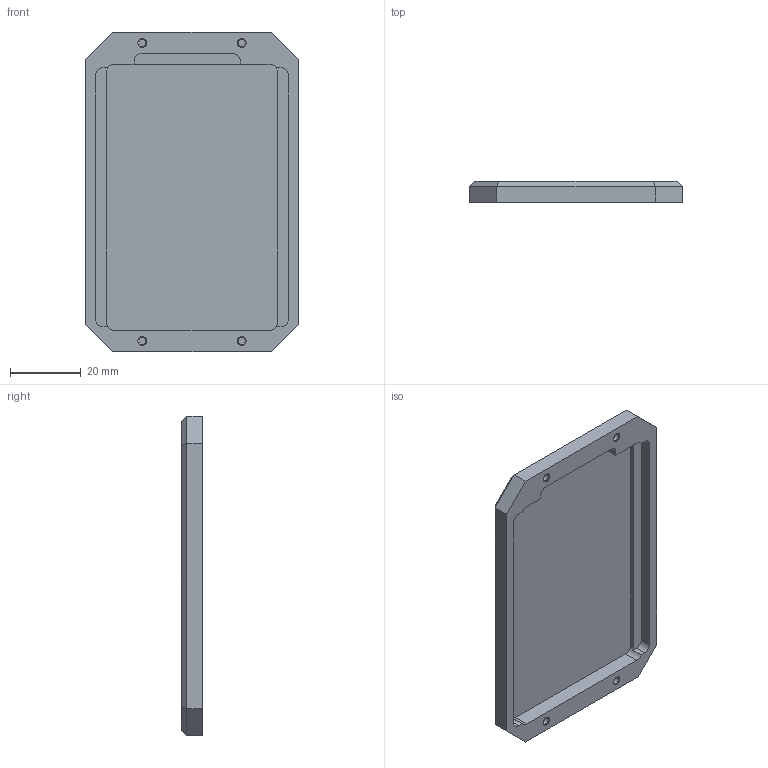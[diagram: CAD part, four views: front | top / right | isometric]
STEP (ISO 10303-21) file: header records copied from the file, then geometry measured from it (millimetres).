
FILE_DESCRIPTION(/* description */ ('VariCAD 2008 2.03 AP-203'),/* implementation_level */ '2;1');
FILE_NAME(/* name */ '0353-18-04',/* time_stamp */ '2008-08-11T15:25:59-06:00',/* author */ (''),/* organization */ (''),/* preprocessor_version */ 'ST-DEVELOPER v12',/* originating_system */ 'VariCAD 2008 2.03; kernel version (20080531)',/* authorisation */ '');
FILE_SCHEMA (('CONFIG_CONTROL_DESIGN'));
Length unit declared in the file: millimetre
Products named in the file (1): Part
Bounding box: 60 x 6 x 90 mm (x, y, z)
Volume: 13256.6 mm3; surface area: 13543.5 mm2
Topology: 5 solids, 5 shells, 98 faces, 223 edges, 140 vertices
Faces by surface type: plane 48, cylinder 42, cone 8
Entity records: 2825 total; most frequent: DIRECTION 519, CARTESIAN_POINT 467, ORIENTED_EDGE 446, EDGE_CURVE 223, AXIS2_PLACEMENT_3D 192, VERTEX_POINT 140, LINE 135, VECTOR 135
